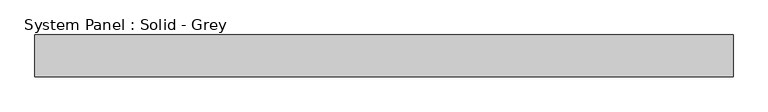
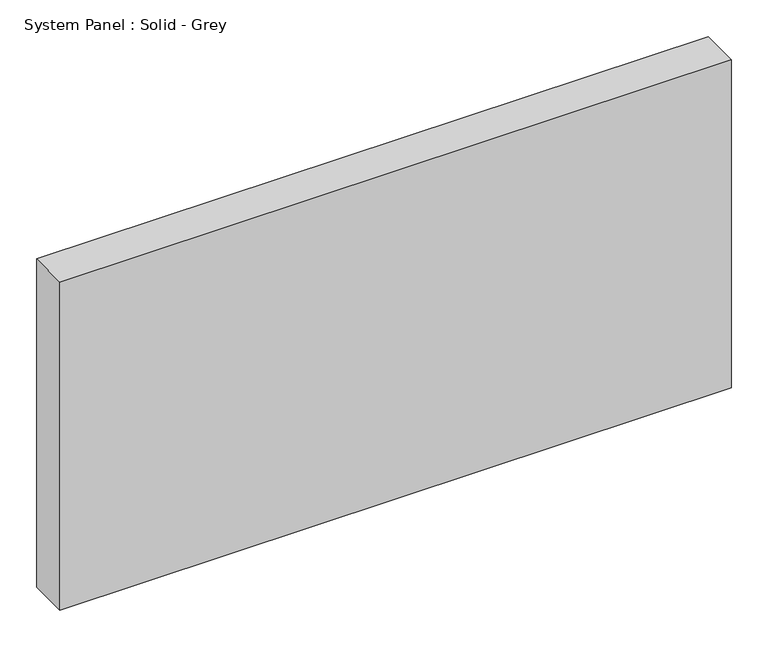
"""IFC4 building model written with IfcOpenShell, lengths in millimetres: plate geometry, System Panel : Solid - Grey."""

from ifc_helpers import new_model, si_unit, origin, origin_with_axes, place, context, project, spatial, polyline, outline, extrude, source, transform, mapped, element, save


def system_panel_solid_grey_1537fd35(model_context):
    return source(origin(), model_context, "Body", "SweptSolid", [
        extrude(outline(polyline([(528.4107144, -19.05), (-528.4107144, -19.05), (-528.4107144, 44.45), (528.4107144, 44.45), (528.4107144, -19.05)])), origin_with_axes(), (0.0, 0.0, 1.0), 546.1),
    ])


if __name__ == "__main__":
    model = new_model("IFC4")
    model_context = context("Model", 3, world=origin())
    ifc_project = project(units=[si_unit("LENGTHUNIT", "METRE", prefix="MILLI")], contexts=[model_context])
    site = spatial("IfcSite", under=ifc_project)
    building = spatial("IfcBuilding", under=site)
    placement = place(None, origin())
    system_panel_solid_grey_shape = system_panel_solid_grey_1537fd35(model_context)
    element("IfcPlate", 1, ObjectType="System Panel : Solid - Grey", at=placement, inside=building, context=model_context, shape_type="MappedRepresentation", body=[
        mapped(system_panel_solid_grey_shape, transform((0.0, 0.0, 0.0), x_axis=(1.0, 0.0, 0.0), y_axis=(0.0, 1.0, 0.0), z_axis=(0.0, 0.0, 1.0))),
    ])
    save(model, "model.ifc")
